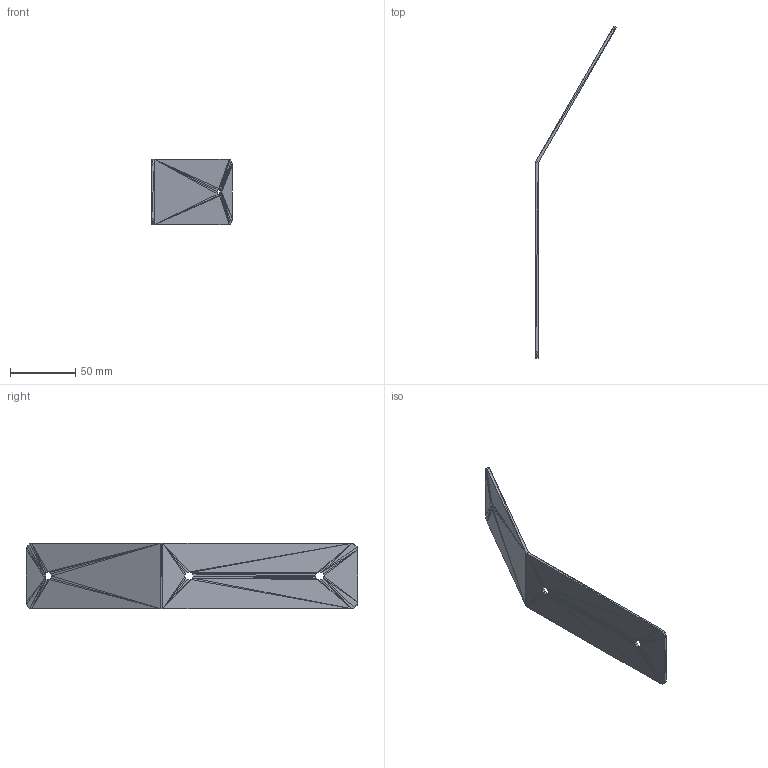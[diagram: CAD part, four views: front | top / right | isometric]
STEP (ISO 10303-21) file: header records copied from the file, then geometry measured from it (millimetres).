
FILE_DESCRIPTION((''),'2;1');
FILE_NAME('003591', '2025-07-22T11:08:11', (''), (''), 'ImageToStl.com STEP Converter','', '');
FILE_SCHEMA(('AUTOMOTIVE_DESIGN_CC2'));
Length unit declared in the file: metre
Products named in the file (1): product0
Bounding box: 61.73 x 253.92 x 50 mm (x, y, z)
Surface area: 28092.9 mm2 (no closed solid volume)
Topology: 0 solids, 240 shells, 240 faces, 720 edges, 174 vertices
Faces by surface type: plane 240
Entity records: 5656 total; most frequent: DIRECTION 1202, ORIENTED_EDGE 720, EDGE_CURVE 720, LINE 720, VECTOR 720, AXIS2_PLACEMENT_3D 241, FACE_SURFACE 240, PLANE 240
